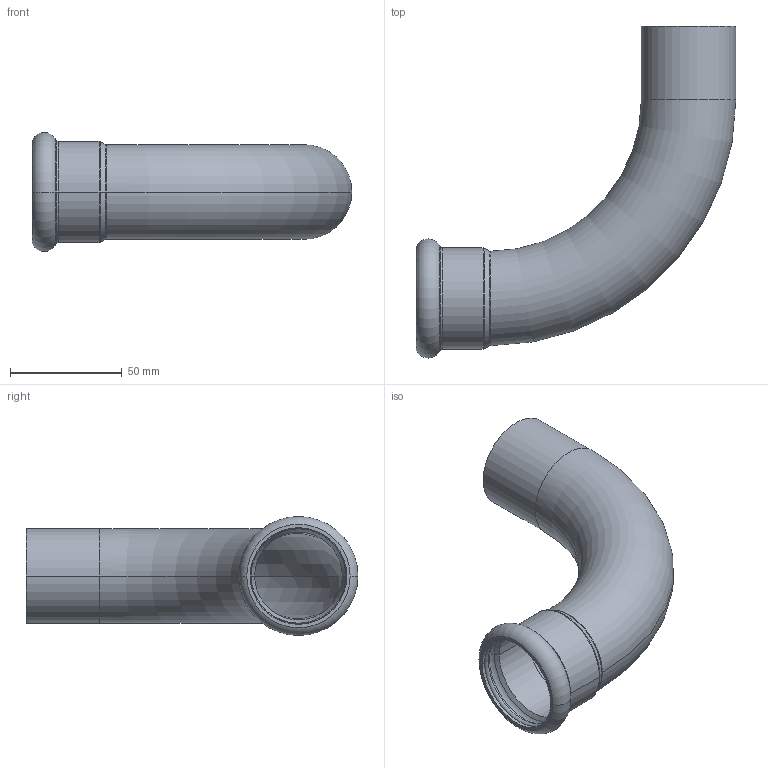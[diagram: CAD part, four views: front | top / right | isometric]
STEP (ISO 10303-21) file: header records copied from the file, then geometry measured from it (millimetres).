
FILE_DESCRIPTION (( 'STEP AP214' ), '1' );
FILE_NAME ('E42000B.STEP', '2025-08-17T07:54:56', ( '' ), ( '' ), 'SwSTEP 2.0', 'SolidWorks 2020', '' );
FILE_SCHEMA (( 'AUTOMOTIVE_DESIGN' ));
Length unit declared in the file: millimetre
Products named in the file (1): E42000B
Bounding box: 143.15 x 148.65 x 53.3 mm (x, y, z)
Volume: 42274.1 mm3; surface area: 56573.7 mm2
Topology: 2 solids, 2 shells, 39 faces, 83 edges, 47 vertices
Faces by surface type: torus 14, cylinder 8, cone 8, bspline 6, plane 3
Entity records: 3237 total; most frequent: CARTESIAN_POINT 2021, DIRECTION 186, ORIENTED_EDGE 166, AXIS2_PLACEMENT_3D 84, EDGE_CURVE 83, CIRCLE 50, VERTEX_POINT 47, EDGE_LOOP 42
